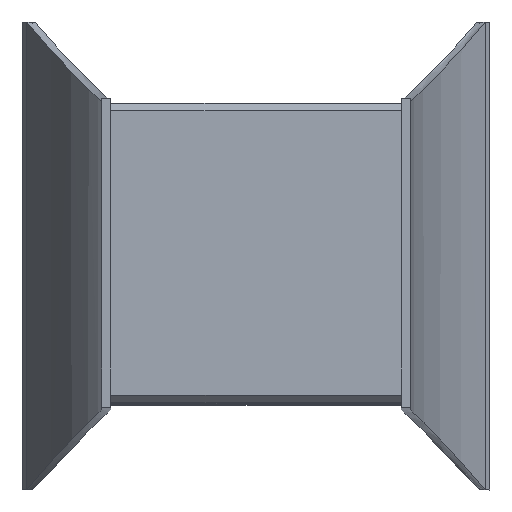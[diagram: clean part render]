
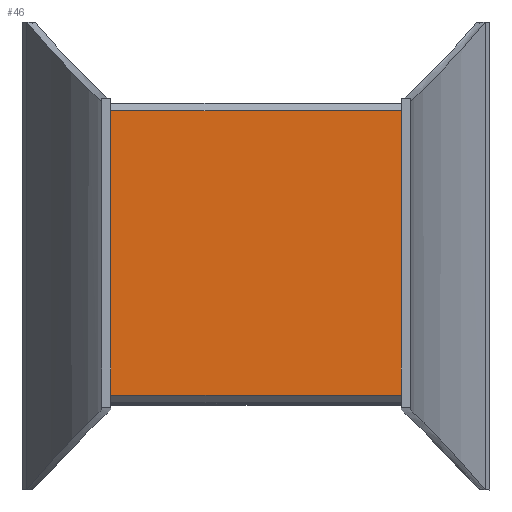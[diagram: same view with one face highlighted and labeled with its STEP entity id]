
A CAD part, top view. The second image highlights one B-rep face of the part: STEP entity #46.
In plain terms, the highlighted planar face has unit normal (0, 0, 1).
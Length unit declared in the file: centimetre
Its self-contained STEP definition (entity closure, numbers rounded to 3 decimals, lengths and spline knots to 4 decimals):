
#46=ADVANCED_FACE($,(#100),#648,.T.);
#100=FACE_OUTER_BOUND($,#154,.T.);
#154=EDGE_LOOP($,(#236,#237,#238,#239));
#236=ORIENTED_EDGE($,*,*,#458,.T.);
#237=ORIENTED_EDGE($,*,*,#459,.T.);
#238=ORIENTED_EDGE($,*,*,#460,.T.);
#239=ORIENTED_EDGE($,*,*,#461,.T.);
#458=EDGE_CURVE($,#572,#573,#700,.T.);
#459=EDGE_CURVE($,#573,#574,#701,.T.);
#460=EDGE_CURVE($,#574,#575,#702,.T.);
#461=EDGE_CURVE($,#575,#572,#703,.T.);
#572=VERTEX_POINT($,#1080);
#573=VERTEX_POINT($,#1081);
#574=VERTEX_POINT($,#1082);
#575=VERTEX_POINT($,#1083);
#648=PLANE($,#898);
#700=B_SPLINE_CURVE_WITH_KNOTS($,1,(#1036,#1037),.UNSPECIFIED.,.F.,.F.,(2,
2),(0.,304.),.UNSPECIFIED.);
#701=B_SPLINE_CURVE_WITH_KNOTS($,1,(#1038,#1039),.UNSPECIFIED.,.F.,.F.,(2,
2),(0.,310.),.UNSPECIFIED.);
#702=B_SPLINE_CURVE_WITH_KNOTS($,1,(#1040,#1041),.UNSPECIFIED.,.F.,.F.,(2,
2),(-304.,0.),.UNSPECIFIED.);
#703=B_SPLINE_CURVE_WITH_KNOTS($,1,(#1042,#1043),.UNSPECIFIED.,.F.,.F.,(2,
2),(-310.,0.),.UNSPECIFIED.);
#898=AXIS2_PLACEMENT_3D($,#1072,#943,$);
#943=DIRECTION($,(0.,0.,1.));
#1036=CARTESIAN_POINT($,(9.9995,40.2,171.));
#1037=CARTESIAN_POINT($,(9.9994,9.8,171.));
#1038=CARTESIAN_POINT($,(9.9994,9.8,171.));
#1039=CARTESIAN_POINT($,(40.9994,9.7999,170.9995));
#1040=CARTESIAN_POINT($,(40.9994,9.7999,170.9995));
#1041=CARTESIAN_POINT($,(40.9995,40.1999,170.9995));
#1042=CARTESIAN_POINT($,(40.9995,40.1999,170.9995));
#1043=CARTESIAN_POINT($,(9.9995,40.2,171.));
#1072=CARTESIAN_POINT($,(9.9995,40.2,171.));
#1080=CARTESIAN_POINT($,(9.9995,40.2,171.));
#1081=CARTESIAN_POINT($,(9.9994,9.8,171.));
#1082=CARTESIAN_POINT($,(40.9994,9.7999,170.9995));
#1083=CARTESIAN_POINT($,(40.9995,40.1999,170.9995));
